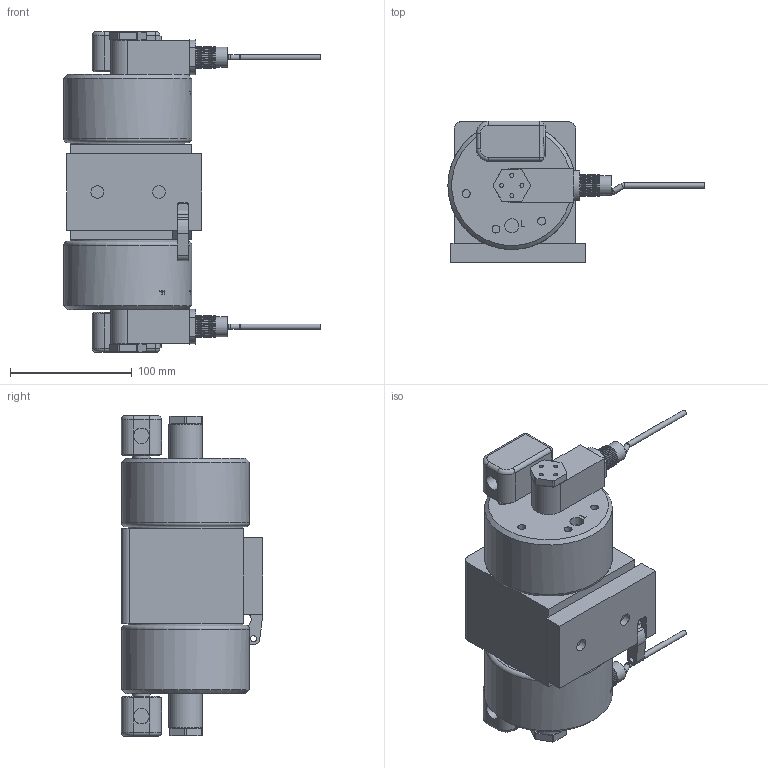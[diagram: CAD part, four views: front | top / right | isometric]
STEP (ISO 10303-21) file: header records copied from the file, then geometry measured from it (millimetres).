
FILE_DESCRIPTION (( 'STEP AP214' ), '1' );
FILE_NAME ('PXA030_solid model.STEP', '2013-07-24T14:54:47', ( '' ), ( '' ), 'SwSTEP 2.0', 'SolidWorks 2012', '' );
FILE_SCHEMA (( 'AUTOMOTIVE_DESIGN' ));
Length unit declared in the file: inch
Products named in the file (1): PXA030_solid model
Bounding box: 210.53 x 116.15 x 263.49 mm (x, y, z)
Volume: 2082858.2 mm3; surface area: 151808.6 mm2
Topology: 1 solids, 1 shells, 1118 faces, 2816 edges, 1840 vertices
Faces by surface type: plane 755, cylinder 142, bspline 113, cone 92, torus 12, sphere 4
Full cylindrical faces by diameter (mm): 3.175 x4, 3.251 x24, 3.264 x4, 4.445 x8, 4.902 x1, 6.528 x8, 10.312 x2, 11.43 x1, 11.509 x2, 12.725 x2, 14.656 x2, 15.939 x1, 16.408 x2, 16.7 x1, 18.923 x1, 22.225 x2, 22.25 x2, 25.19 x2, 36.601 x1, 94.412 x2, 105.08 x2
Entity records: 41942 total; most frequent: CARTESIAN_POINT 12230, ORIENTED_EDGE 5238, DIRECTION 4831, EDGE_CURVE 2619, VECTOR 1949, LINE 1949, VERTEX_POINT 1806, AXIS2_PLACEMENT_3D 1441
